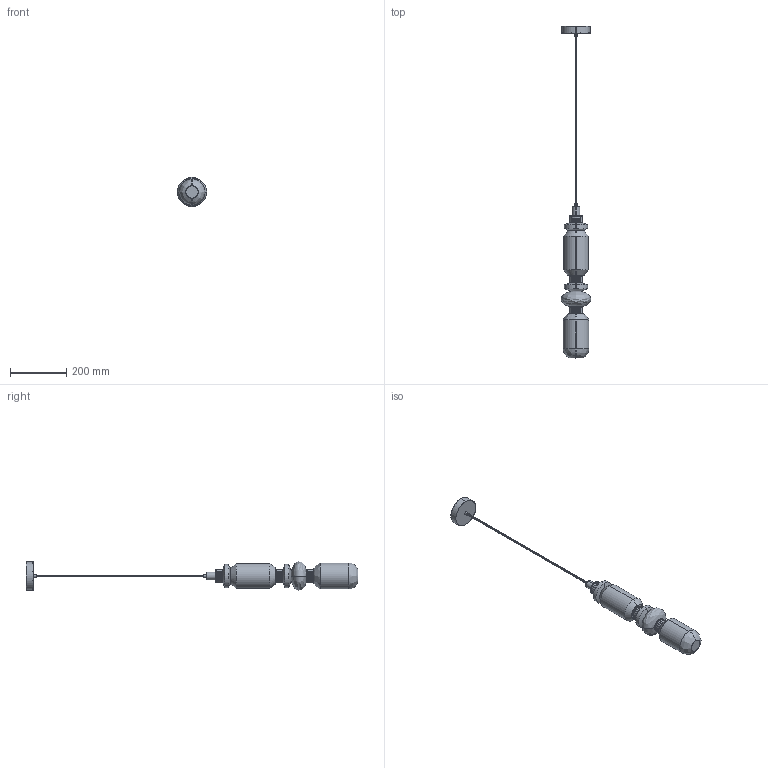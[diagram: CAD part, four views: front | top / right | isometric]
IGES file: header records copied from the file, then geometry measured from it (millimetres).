
Start section: SolidWorks IGES file using analytic representation for surfaces
Global section: file name: F:\燠隴矨\3D\2024-6堎\Ballet Pendant Lamp-model H.IGS; native system: SolidWorks 2022; preprocessor: SolidWorks 2022; author: MyPC; date: 240611.215333; units: millimetre
Bounding box: 104.98 x 1180.31 x 104.76 mm (x, y, z)
Surface area: 220382.1 mm2 (no closed solid volume)
Topology: 0 solids, 0 shells, 374 faces, 7908 edges, 7902 vertices
Faces by surface type: bspline 216, revolution 158
